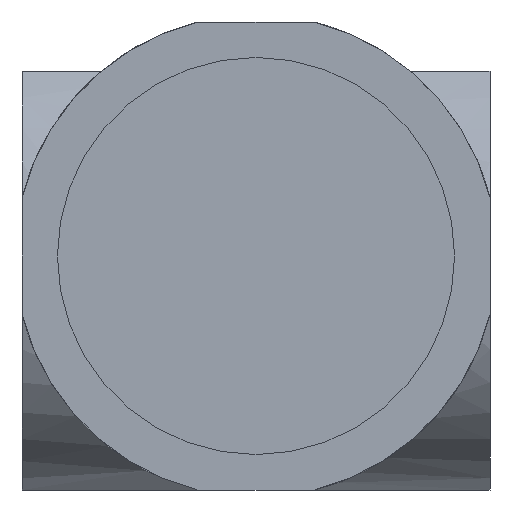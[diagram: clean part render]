
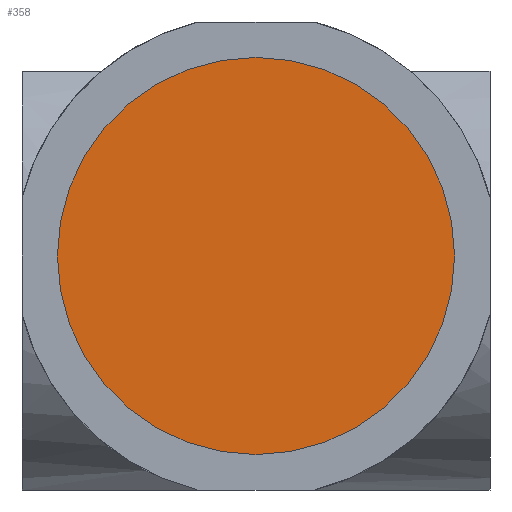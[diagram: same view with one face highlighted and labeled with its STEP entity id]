
A CAD part, front view. The second image highlights one B-rep face of the part: STEP entity #358.
In plain terms, the highlighted planar face has unit normal (0, -1, 0).
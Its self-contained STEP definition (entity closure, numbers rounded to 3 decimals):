
#24 = DIRECTION ( 'NONE',  ( 0., -1., 0. ) ) ;
#100 = VERTEX_POINT ( 'NONE', #419 ) ;
#102 = CIRCLE ( 'NONE', #289, 14. ) ;
#127 = CARTESIAN_POINT ( 'NONE',  ( 0., -20., 0. ) ) ;
#151 = FACE_OUTER_BOUND ( 'NONE', #265, .T. ) ;
#221 = PLANE ( 'NONE',  #312 ) ;
#265 = EDGE_LOOP ( 'NONE', ( #626, #466 ) ) ;
#289 = AXIS2_PLACEMENT_3D ( 'NONE', #127, #557, #472 ) ;
#312 = AXIS2_PLACEMENT_3D ( 'NONE', #347, #525, #754 ) ;
#347 = CARTESIAN_POINT ( 'NONE',  ( 0., -20., 0. ) ) ;
#358 = ADVANCED_FACE ( 'NONE', ( #151 ), #221, .T. ) ;
#419 = CARTESIAN_POINT ( 'NONE',  ( 0., -20., 14. ) ) ;
#433 = AXIS2_PLACEMENT_3D ( 'NONE', #434, #24, #614 ) ;
#434 = CARTESIAN_POINT ( 'NONE',  ( 0., -20., 0. ) ) ;
#466 = ORIENTED_EDGE ( 'NONE', *, *, #471, .T. ) ;
#471 = EDGE_CURVE ( 'NONE', #100, #619, #102, .T. ) ;
#472 = DIRECTION ( 'NONE',  ( 0., 0., -1. ) ) ;
#522 = EDGE_CURVE ( 'NONE', #619, #100, #524, .T. ) ;
#524 = CIRCLE ( 'NONE', #433, 14. ) ;
#525 = DIRECTION ( 'NONE',  ( 0., -1., 0. ) ) ;
#557 = DIRECTION ( 'NONE',  ( 0., -1., 0. ) ) ;
#614 = DIRECTION ( 'NONE',  ( 0., 0., -1. ) ) ;
#619 = VERTEX_POINT ( 'NONE', #686 ) ;
#626 = ORIENTED_EDGE ( 'NONE', *, *, #522, .T. ) ;
#686 = CARTESIAN_POINT ( 'NONE',  ( 0., -20., -14. ) ) ;
#754 = DIRECTION ( 'NONE',  ( 0., 0., -1. ) ) ;
